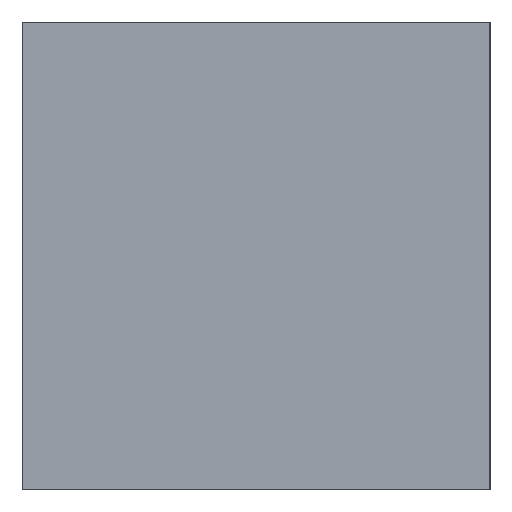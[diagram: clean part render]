
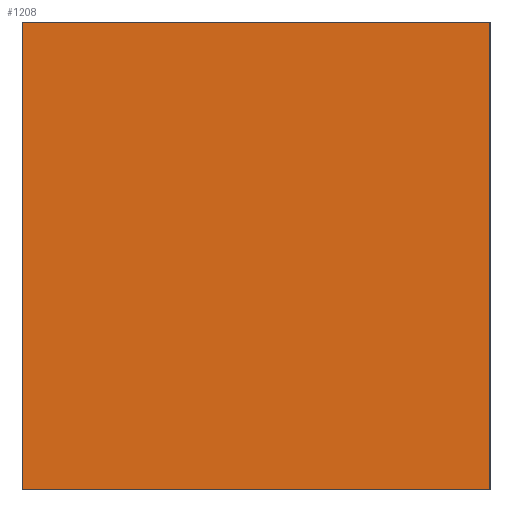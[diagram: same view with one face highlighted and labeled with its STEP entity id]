
A CAD part, left-side view. The second image highlights one B-rep face of the part: STEP entity #1208.
In plain terms, the highlighted planar face has unit normal (1, 0, 0).
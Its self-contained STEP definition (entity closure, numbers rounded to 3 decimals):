
#1169=CARTESIAN_POINT('Axis2P3D Location',(-40.,0.,0.)) ;
#1174=CARTESIAN_POINT('Line Origine',(-40.,0.,-20.)) ;
#1178=CARTESIAN_POINT('Vertex',(-40.,-10.,-20.)) ;
#1180=CARTESIAN_POINT('Vertex',(-40.,10.,-20.)) ;
#1183=CARTESIAN_POINT('Line Origine',(-40.,10.,-10.)) ;
#1187=CARTESIAN_POINT('Vertex',(-40.,10.,0.)) ;
#1190=CARTESIAN_POINT('Line Origine',(-40.,0.,0.)) ;
#1194=CARTESIAN_POINT('Vertex',(-40.,-10.,0.)) ;
#1197=CARTESIAN_POINT('Line Origine',(-40.,-10.,-10.)) ;
#1170=DIRECTION('Axis2P3D Direction',(1.,0.,0.)) ;
#1171=DIRECTION('Axis2P3D XDirection',(0.,1.,0.)) ;
#1175=DIRECTION('Vector Direction',(0.,1.,0.)) ;
#1184=DIRECTION('Vector Direction',(0.,0.,1.)) ;
#1191=DIRECTION('Vector Direction',(0.,-1.,0.)) ;
#1198=DIRECTION('Vector Direction',(0.,0.,-1.)) ;
#1172=AXIS2_PLACEMENT_3D('Plane Axis2P3D',#1169,#1170,#1171) ;
#1203=ORIENTED_EDGE('',*,*,#1182,.T.) ;
#1204=ORIENTED_EDGE('',*,*,#1189,.T.) ;
#1205=ORIENTED_EDGE('',*,*,#1196,.T.) ;
#1206=ORIENTED_EDGE('',*,*,#1201,.T.) ;
#1176=VECTOR('Line Direction',#1175,1.) ;
#1185=VECTOR('Line Direction',#1184,1.) ;
#1192=VECTOR('Line Direction',#1191,1.) ;
#1199=VECTOR('Line Direction',#1198,1.) ;
#1208=ADVANCED_FACE('MANIFOLD_SOLID_BREP #2998',(#1207),#1173,.T.) ;
#1182=EDGE_CURVE('',#1179,#1181,#1177,.T.) ;
#1189=EDGE_CURVE('',#1181,#1188,#1186,.T.) ;
#1196=EDGE_CURVE('',#1188,#1195,#1193,.T.) ;
#1201=EDGE_CURVE('',#1195,#1179,#1200,.T.) ;
#1202=EDGE_LOOP('',(#1203,#1204,#1205,#1206)) ;
#1207=FACE_OUTER_BOUND('',#1202,.T.) ;
#1177=LINE('Line',#1174,#1176) ;
#1186=LINE('Line',#1183,#1185) ;
#1193=LINE('Line',#1190,#1192) ;
#1200=LINE('Line',#1197,#1199) ;
#1173=PLANE('Plane',#1172) ;
#1179=VERTEX_POINT('',#1178) ;
#1181=VERTEX_POINT('',#1180) ;
#1188=VERTEX_POINT('',#1187) ;
#1195=VERTEX_POINT('',#1194) ;
